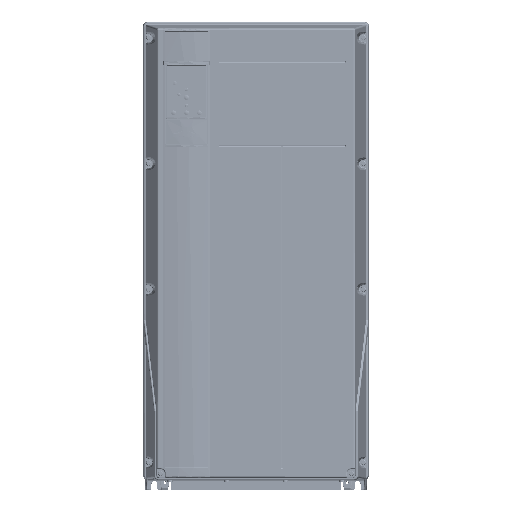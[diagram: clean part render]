
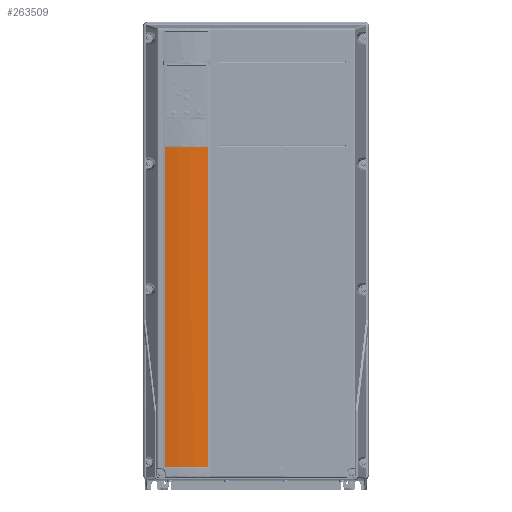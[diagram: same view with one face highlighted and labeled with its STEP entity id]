
A CAD part, top view. The second image highlights one B-rep face of the part: STEP entity #263509.
In plain terms, the highlighted cylindrical face has radius 279.65 mm (diameter 559.3 mm), a partial arc.
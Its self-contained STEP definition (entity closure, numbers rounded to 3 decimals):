
#76931=DIRECTION('',(0.,-1.,0.));
#76932=VECTOR('',#76931,525.24);
#76933=CARTESIAN_POINT('',(-149.262,170.31,
169.718));
#76934=LINE('',#76933,#76932);
#76935=CARTESIAN_POINT('',(-149.262,170.31,
169.718));
#76968=CARTESIAN_POINT('',(-78.738,170.31,
169.718));
#76970=CARTESIAN_POINT('',(-78.738,170.31,
169.718));
#76971=CARTESIAN_POINT('',(-86.548,170.311,
170.711));
#76972=CARTESIAN_POINT('',(-102.194,170.31,
172.032));
#76973=CARTESIAN_POINT('',(-125.806,170.31,
172.032));
#76974=CARTESIAN_POINT('',(-141.452,170.311,
170.711));
#76975=CARTESIAN_POINT('',(-149.262,170.31,
169.718));
#77010=CARTESIAN_POINT('',(-114.,-355.013,-107.7));
#77011=DIRECTION('',(0.,1.,0.));
#77012=DIRECTION('',(-0.126,0.,0.992));
#77013=AXIS2_PLACEMENT_3D('',#77010,#77011,#77012);
#77025=CARTESIAN_POINT('',(-149.176,-355.013,
169.729));
#77026=CARTESIAN_POINT('',(-149.222,-355.013,
169.723));
#77027=CARTESIAN_POINT('',(-149.262,-354.972,
169.718));
#77028=CARTESIAN_POINT('',(-149.262,-354.93,169.718));
#77030=CARTESIAN_POINT('',(-78.738,-354.93,
169.718));
#77031=CARTESIAN_POINT('',(-78.738,-354.972,
169.718));
#77032=CARTESIAN_POINT('',(-78.778,-355.013,
169.723));
#77033=CARTESIAN_POINT('',(-78.824,-355.013,
169.729));
#77040=DIRECTION('',(0.,1.,0.));
#77041=VECTOR('',#77040,525.24);
#77042=CARTESIAN_POINT('',(-78.738,-354.93,
169.718));
#77043=LINE('',#77042,#77041);
#94715=VERTEX_POINT('',#76935);
#94716=CARTESIAN_POINT('',(-149.262,-354.93,169.718));
#94717=VERTEX_POINT('',#94716);
#94719=VERTEX_POINT('',#76968);
#94724=CARTESIAN_POINT('',(-149.176,-355.013,
169.729));
#94725=VERTEX_POINT('',#94724);
#94726=CARTESIAN_POINT('',(-78.824,-355.013,
169.729));
#94727=VERTEX_POINT('',#94726);
#94728=CARTESIAN_POINT('',(-78.738,-354.93,
169.718));
#94729=VERTEX_POINT('',#94728);
#263494=CARTESIAN_POINT('',(-114.,371.54,-107.7));
#263495=DIRECTION('',(0.,-1.,0.));
#263496=DIRECTION('',(1.,0.,0.));
#263497=AXIS2_PLACEMENT_3D('',#263494,#263495,#263496);
#263498=CYLINDRICAL_SURFACE('',#263497,279.65);
#263499=ORIENTED_EDGE('',*,*,#263488,.T.);
#263500=ORIENTED_EDGE('',*,*,#263245,.F.);
#263501=ORIENTED_EDGE('',*,*,#263264,.F.);
#263503=ORIENTED_EDGE('',*,*,#263502,.F.);
#263505=ORIENTED_EDGE('',*,*,#263504,.T.);
#263506=ORIENTED_EDGE('',*,*,#263410,.F.);
#263507=EDGE_LOOP('',(#263499,#263500,#263501,#263503,#263505,#263506));
#263508=FACE_OUTER_BOUND('',#263507,.F.);
#76976=B_SPLINE_CURVE_WITH_KNOTS('',3,(#76970,#76971,#76972,#76973,#76974,
#76975),.UNSPECIFIED.,.F.,.F.,(4,1,1,4),(0.,0.333,
0.667,1.),.UNSPECIFIED.);
#77014=CIRCLE('',#77013,279.65);
#77029=B_SPLINE_CURVE_WITH_KNOTS('',3,(#77025,#77026,#77027,#77028),
.UNSPECIFIED.,.F.,.F.,(4,4),(0.,1.),.UNSPECIFIED.);
#77034=B_SPLINE_CURVE_WITH_KNOTS('',3,(#77030,#77031,#77032,#77033),
.UNSPECIFIED.,.F.,.F.,(4,4),(0.,1.),.UNSPECIFIED.);
#263245=EDGE_CURVE('',#94715,#94717,#76934,.T.);
#263264=EDGE_CURVE('',#94719,#94715,#76976,.T.);
#263410=EDGE_CURVE('',#94725,#94727,#77014,.T.);
#263488=EDGE_CURVE('',#94725,#94717,#77029,.T.);
#263502=EDGE_CURVE('',#94729,#94719,#77043,.T.);
#263504=EDGE_CURVE('',#94729,#94727,#77034,.T.);
#263509=ADVANCED_FACE('',(#263508),#263498,.T.);
